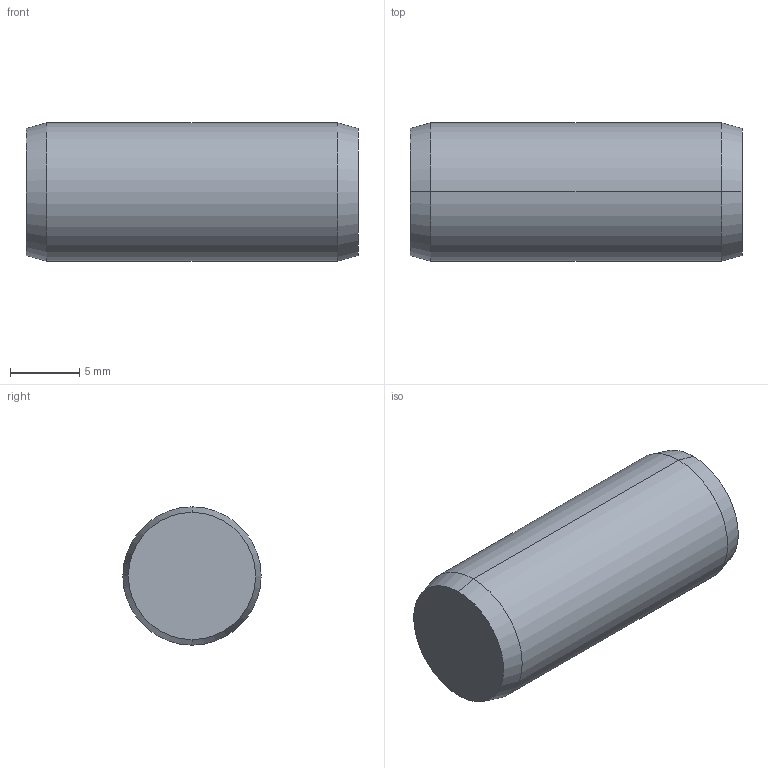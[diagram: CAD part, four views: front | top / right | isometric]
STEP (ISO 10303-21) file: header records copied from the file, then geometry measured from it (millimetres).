
FILE_DESCRIPTION (( 'STEP AP203' ), '1' );
FILE_NAME ('P1206.100-024.step', '2017-06-14T08:31:15', ( 'User' ), ( '' ), 'SwSTEP 2.0', 'SolidWorks 2009', '' );
FILE_SCHEMA (( 'CONFIG_CONTROL_DESIGN' ));
Length unit declared in the file: millimetre
Products named in the file (1): P1206.100-024
Bounding box: 24 x 10 x 10 mm (x, y, z)
Volume: 1866.5 mm3; surface area: 886.2 mm2
Topology: 1 solids, 1 shells, 8 faces, 14 edges, 8 vertices
Faces by surface type: cone 4, cylinder 2, plane 2
Entity records: 271 total; most frequent: DIRECTION 40, CARTESIAN_POINT 31, ORIENTED_EDGE 28, AXIS2_PLACEMENT_3D 17, EDGE_CURVE 14, VERTEX_POINT 8, CIRCLE 8, FACE_OUTER_BOUND 8
